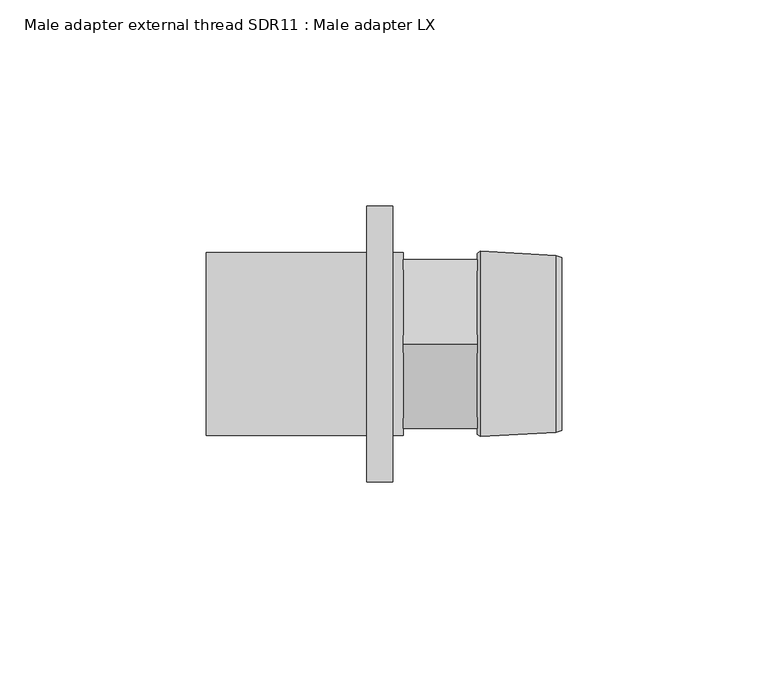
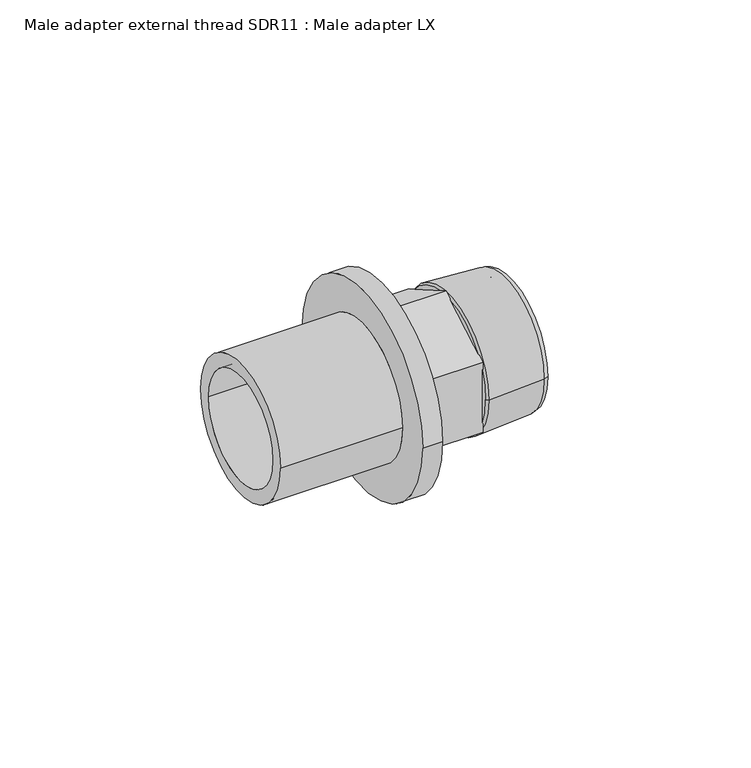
"""IFC4 building model written with IfcOpenShell, lengths in millimetres: pipe fitting geometry, Male adapter external thread SDR11 : Male adapter LX."""

import ifcopenshell
import ifcopenshell.guid

model = None  # the IFC model being written
_history = None  # IfcOwnerHistory: only IFC2X3 demands one
_inside = {}  # id of a spatial element -> (the spatial element, [elements in it])
_under = {}  # id of a project, library or spatial element -> (it, [spatial elements below it])
_declared = {}  # id of a project -> (the project, [libraries it declares])
_typed = {}  # id of a type object -> (the type object, [elements of that type])
_made_of = {}  # id of a material, layer set ... -> (it, [elements and type objects made of it])


def new_model(schema):
    """Start an empty IFC model of exactly this schema.

    Asked for "IFC4X3", IfcOpenShell would pick the latest addendum, in which some entities
    have other attributes; the version numbers below select the first issue.
    IFC2X3 requires an IfcOwnerHistory on every rooted entity: one is made here for all.
    """
    global model, _history
    if schema == "IFC4X3":
        model = ifcopenshell.file(schema_version=(4, 3, 0, 0))
    else:
        model = ifcopenshell.file(schema=schema)
    _inside.clear()
    _under.clear()
    _declared.clear()
    _typed.clear()
    _made_of.clear()
    _history = None
    if model.schema == "IFC2X3":
        org = make("IfcOrganization", Name="unknown")
        user = make(
            "IfcPersonAndOrganization",
            ThePerson=make("IfcPerson", FamilyName="unknown"),
            TheOrganization=org,
        )
        app = make(
            "IfcApplication",
            ApplicationDeveloper=org,
            Version="unknown",
            ApplicationFullName="unknown",
            ApplicationIdentifier="unknown",
        )
        _history = make(
            "IfcOwnerHistory",
            OwningUser=user,
            OwningApplication=app,
            ChangeAction="ADDED",
            CreationDate=0,
        )
    return model


def make(cls, **values):
    """One entity of the class cls with the attributes given. An attribute that is None is left unset."""
    return model.create_entity(
        cls, **{name: value for name, value in values.items() if value is not None}
    )


def rooted(cls, **values):
    """An entity with a GlobalId (a new one), such as an element, a storey or a relation."""
    return make(cls, GlobalId=ifcopenshell.guid.new(), OwnerHistory=_history, **values)


def si_unit(unit_type, name, prefix=None):
    """IfcSIUnit, for example si_unit("LENGTHUNIT", "METRE", prefix="MILLI")."""
    return make("IfcSIUnit", UnitType=unit_type, Prefix=prefix, Name=name)


def assignment(units):
    """IfcUnitAssignment: the units of a project."""
    return None if units is None else make("IfcUnitAssignment", Units=units)


def point(xyz):
    """IfcCartesianPoint."""
    return None if xyz is None else make("IfcCartesianPoint", Coordinates=xyz)


def direction(xyz):
    """IfcDirection."""
    return None if xyz is None else make("IfcDirection", DirectionRatios=xyz)


def frame(location, z_axis=None, x_axis=None):
    """IfcAxis2Placement3D, a coordinate frame: its origin and axes. An axis left out is left unset."""
    return make(
        "IfcAxis2Placement3D",
        Location=point(location),
        Axis=direction(z_axis),
        RefDirection=direction(x_axis),
    )


def origin():
    """The frame at (0, 0, 0) with its axes left unset."""
    return frame((0.0, 0.0, 0.0))


def place(relative_to, where):
    """IfcLocalPlacement: puts the frame where relative to a parent placement (None: the world)."""
    return make(
        "IfcLocalPlacement", PlacementRelTo=relative_to, RelativePlacement=where
    )


def context(
    kind, dimensions, precision=None, world=None, true_north=None, identifier=None
):
    """IfcGeometricRepresentationContext, for example the 3D "Model" context."""
    return make(
        "IfcGeometricRepresentationContext",
        ContextIdentifier=identifier,
        ContextType=kind,
        CoordinateSpaceDimension=dimensions,
        Precision=precision,
        WorldCoordinateSystem=world,
        TrueNorth=true_north,
    )


def project(units=None, contexts=None):
    """IfcProject with its units and contexts."""
    return rooted(
        "IfcProject",
        Name="project",
        RepresentationContexts=contexts,
        UnitsInContext=assignment(units),
    )


def spatial(cls, under=None, at=None, **own):
    """A site, building, storey or space (cls), placed at a placement, below another one or the project."""
    s = rooted(cls, ObjectPlacement=at, **own)
    if under is not None:
        _under.setdefault(under.id(), (under, []))[1].append(s)
    return s


def polyline(points):
    """IfcPolyline through the points."""
    return make("IfcPolyline", Points=[point(p) for p in points])


def circle_curve(where, radius):
    """IfcCircle in the frame where."""
    return make("IfcCircle", Position=where, Radius=radius)


def outline(outer, holes=None, kind="AREA"):
    """IfcArbitraryClosedProfileDef: a profile drawn as a closed curve; with holes, ...WithVoids."""
    if holes is None:
        return make("IfcArbitraryClosedProfileDef", ProfileType=kind, OuterCurve=outer)
    return make(
        "IfcArbitraryProfileDefWithVoids",
        ProfileType=kind,
        OuterCurve=outer,
        InnerCurves=holes,
    )


def extrude(swept, where, along, depth):
    """IfcExtrudedAreaSolid: the profile swept, set in the frame where, extruded along a direction by depth."""
    return make(
        "IfcExtrudedAreaSolid",
        SweptArea=swept,
        Position=where,
        ExtrudedDirection=direction(along),
        Depth=depth,
    )


def shape(context_of_items, identifier, shape_type, items):
    """IfcShapeRepresentation: the items that make up one representation, for example the "Body"."""
    return make(
        "IfcShapeRepresentation",
        ContextOfItems=context_of_items,
        RepresentationIdentifier=identifier,
        RepresentationType=shape_type,
        Items=items,
    )


def source(mapping_origin, context_of_items, identifier, shape_type, items):
    """IfcRepresentationMap: a shape defined once, which mapped items show again and again."""
    return make(
        "IfcRepresentationMap",
        MappingOrigin=mapping_origin,
        MappedRepresentation=shape(context_of_items, identifier, shape_type, items),
    )


def transform(
    local_origin,
    x_axis=None,
    y_axis=None,
    z_axis=None,
    scale=None,
    scale2=None,
    scale3=None,
    uniform=True,
):
    """IfcCartesianTransformationOperator3D, or its non-uniform kind. x_axis, y_axis, z_axis: its Axis1, 2, 3."""
    if uniform:
        return make(
            "IfcCartesianTransformationOperator3D",
            Axis1=direction(x_axis),
            Axis2=direction(y_axis),
            LocalOrigin=point(local_origin),
            Scale=scale,
            Axis3=direction(z_axis),
        )
    return make(
        "IfcCartesianTransformationOperator3DnonUniform",
        Axis1=direction(x_axis),
        Axis2=direction(y_axis),
        LocalOrigin=point(local_origin),
        Scale=scale,
        Axis3=direction(z_axis),
        Scale2=scale2,
        Scale3=scale3,
    )


def mapped(mapping_source, mapping_target):
    """IfcMappedItem: shows the shape of a source again, moved by a transform."""
    return make(
        "IfcMappedItem", MappingSource=mapping_source, MappingTarget=mapping_target
    )


def made_of(thing, what):
    """Note that an element or type object is made of a material, layer set ...; save() writes the relation."""
    if what is not None:
        _made_of.setdefault(what.id(), (what, []))[1].append(thing)
    return thing


def element(
    cls,
    number,
    at=None,
    inside=None,
    cuts=None,
    type_object=None,
    material=None,
    context=None,
    identifier="Body",
    shape_type=None,
    held_by="IfcProductDefinitionShape",
    body=None,
    shapes=None,
    **own,
):
    """One element of the class cls, such as IfcWall. Its Tag is "e" and its number.

    at: its placement. inside: the storey or other place that contains it. cuts: it is an
    opening in that element (IfcRelVoidsElement). A single representation is given by context,
    identifier, shape_type and body (its items); several are given by shapes. held_by: the class
    of the entity that holds the representations. save() writes the other relations.
    """
    e = rooted(cls, Tag="e%d" % number, ObjectPlacement=at, **own)
    if body is not None:
        shapes = [shape(context, identifier, shape_type, body)]
    if shapes is not None:
        e.Representation = make(held_by, Representations=shapes)
    if inside is not None:
        _inside.setdefault(inside.id(), (inside, []))[1].append(e)
    if cuts is not None:
        rooted(
            "IfcRelVoidsElement", RelatingBuildingElement=cuts, RelatedOpeningElement=e
        )
    if type_object is not None:
        _typed.setdefault(type_object.id(), (type_object, []))[1].append(e)
    return made_of(e, material)


def aggregate(whole, parts):
    """IfcRelAggregates: a whole, such as a stair, and the parts it consists of."""
    return rooted("IfcRelAggregates", RelatingObject=whole, RelatedObjects=parts)


def save(model, path):
    """Write the relations noted so far, then the file.

    IfcRelAggregates (storeys below a building ...), IfcRelContainedInSpatialStructure (elements
    in a storey), IfcRelDefinesByType, IfcRelAssociatesMaterial and IfcRelDeclares: one each for
    every whole, place, type object, material and project.
    """
    for whole, parts in _under.values():
        aggregate(whole, parts)
    for where, things in _inside.values():
        rooted(
            "IfcRelContainedInSpatialStructure",
            RelatedElements=things,
            RelatingStructure=where,
        )
    for kind, things in _typed.values():
        rooted("IfcRelDefinesByType", RelatedObjects=things, RelatingType=kind)
    for what, things in _made_of.values():
        rooted("IfcRelAssociatesMaterial", RelatedObjects=things, RelatingMaterial=what)
    for by, libraries in _declared.values():
        rooted("IfcRelDeclares", RelatingContext=by, RelatedDefinitions=libraries)
    model.write(path)


def plane_surface(at):
    """IfcPlane: the flat surface through the origin of the frame at, square to its z axis."""
    return make("IfcPlane", Position=at)


def cylinder_surface(at, radius):
    """IfcCylindricalSurface: all points at the distance radius from the z axis of the frame at."""
    return make("IfcCylindricalSurface", Position=at, Radius=radius)


def revolved_surface(curve, axis_point, axis_direction):
    """IfcSurfaceOfRevolution: the curve turned about the line through axis_point along axis_direction."""
    return make(
        "IfcSurfaceOfRevolution",
        SweptCurve=make("IfcArbitraryOpenProfileDef", ProfileType="CURVE", Curve=curve),
        AxisPosition=make("IfcAxis1Placement", Location=point(axis_point), Axis=direction(axis_direction)),
    )


def advanced_brep(points, edges, surfaces, faces):
    """IfcAdvancedBrep: a solid bounded by faces that lie on surfaces and meet in shared edges.

    An edge is (start, end): straight between two places in points (the first is 0);
    or (start, end, curve); or (start, end, curve, False) where it runs against its curve.
    A face is (place in surfaces, loops), or (place, loops, False) where it looks against
    its surface's normal. A loop lists edges by number (the first is 1), with a minus sign
    where the edge is run from its end to its start. The first loop is the outer one.
    """
    corners = [point(p) for p in points]
    vertices = [make("IfcVertexPoint", VertexGeometry=c) for c in corners]
    made = []
    for start, end, *more in edges:
        made.append(
            make(
                "IfcEdgeCurve",
                EdgeStart=vertices[start],
                EdgeEnd=vertices[end],
                EdgeGeometry=more[0] if more else make("IfcPolyline", Points=[corners[start], corners[end]]),
                SameSense=more[1] if len(more) > 1 else True,
            )
        )
    hull = []
    for where, loops, *sense in faces:
        bounds = []
        for j, loop in enumerate(loops):
            ring = [make("IfcOrientedEdge", EdgeElement=made[abs(k) - 1], Orientation=k > 0) for k in loop]
            bounds.append(
                make(
                    "IfcFaceOuterBound" if j == 0 else "IfcFaceBound",
                    Bound=make("IfcEdgeLoop", EdgeList=ring),
                    Orientation=True,
                )
            )
        hull.append(make("IfcAdvancedFace", Bounds=bounds, FaceSurface=surfaces[where], SameSense=sense[0] if sense else True))
    return make("IfcAdvancedBrep", Outer=make("IfcClosedShell", CfsFaces=hull))


def male_adapter_external_thread_sdr11_male_adapter_lx_b940736f(model_context):
    return source(origin(), model_context, "Body", "SolidModel", [
        advanced_brep(
        [(-8.8, 22.15, 0.0), (-8.8, -22.15, 0.0), (-47.8, -22.15, 0.0), (-47.8, 22.15, 0.0), (-2.5, 33.5, 0.0), (-2.5, -33.5, 0.0), (-8.8, -33.5, 0.0), (-8.8, 33.5, 0.0), (0.0, 22.15, 0.0), (0.0, -22.15, 0.0), (-2.5, -22.15, 0.0), (-2.5, 22.15, 0.0), (-47.8, 17.75, 0.0), (-47.8, -17.75, 0.0), (0.0, -17.75, 0.0), (0.0, 17.75, 0.0)],
        [
            (0, 1, circle_curve(frame((-8.8, 0.0, 0.0), z_axis=(-1.0, 0.0, 0.0), x_axis=(0.0, -1.0, 0.0)), 22.15)),
            (1, 2),
            (2, 3, circle_curve(frame((-47.8, 0.0, 0.0), z_axis=(1.0, 0.0, 0.0), x_axis=(0.0, -1.0, 0.0)), 22.15)),
            (3, 0),
            (4, 5, circle_curve(frame((-2.5, 0.0, 0.0), z_axis=(-1.0, 0.0, 0.0), x_axis=(0.0, -1.0, 0.0)), 33.5)),
            (5, 6),
            (6, 7, circle_curve(frame((-8.8, 0.0, 0.0), z_axis=(1.0, 0.0, 0.0), x_axis=(0.0, -1.0, 0.0)), 33.5)),
            (7, 4),
            (8, 9, circle_curve(frame((0.0, 0.0, 0.0), z_axis=(-1.0, 0.0, 0.0), x_axis=(0.0, -1.0, 0.0)), 22.15)),
            (9, 10),
            (10, 11, circle_curve(frame((-2.5, 0.0, 0.0), z_axis=(1.0, 0.0, 0.0), x_axis=(0.0, -1.0, 0.0)), 22.15)),
            (11, 8),
            (12, 13, circle_curve(frame((-47.8, 0.0, 0.0), z_axis=(-1.0, 0.0, 0.0), x_axis=(0.0, -1.0, 0.0)), 17.75)),
            (13, 14),
            (14, 15, circle_curve(frame((0.0, 0.0, 0.0), z_axis=(1.0, 0.0, 0.0), x_axis=(0.0, -1.0, 0.0)), 17.75)),
            (15, 12),
            (2, 3, circle_curve(frame((-47.8, 0.0, 0.0), z_axis=(-1.0, 0.0, 0.0), x_axis=(0.0, 1.0, 0.0)), 22.15)),
            (12, 13, circle_curve(frame((-47.8, 0.0, 0.0), z_axis=(1.0, 0.0, 0.0), x_axis=(0.0, 1.0, 0.0)), 17.75)),
            (1, 0, circle_curve(frame((-8.8, 0.0, 0.0), z_axis=(-1.0, 0.0, 0.0), x_axis=(0.0, 1.0, 0.0)), 22.15)),
            (6, 7, circle_curve(frame((-8.8, 0.0, 0.0), z_axis=(-1.0, 0.0, 0.0), x_axis=(0.0, 1.0, 0.0)), 33.5)),
            (5, 4, circle_curve(frame((-2.5, 0.0, 0.0), z_axis=(-1.0, 0.0, 0.0), x_axis=(0.0, 1.0, 0.0)), 33.5)),
            (10, 11, circle_curve(frame((-2.5, 0.0, 0.0), z_axis=(-1.0, 0.0, 0.0), x_axis=(0.0, 1.0, 0.0)), 22.15)),
            (9, 8, circle_curve(frame((0.0, 0.0, 0.0), z_axis=(-1.0, 0.0, 0.0), x_axis=(0.0, 1.0, 0.0)), 22.15)),
            (14, 15, circle_curve(frame((0.0, 0.0, 0.0), z_axis=(-1.0, 0.0, 0.0), x_axis=(0.0, 1.0, 0.0)), 17.75)),
        ],
        [
            cylinder_surface(frame((0.0, 0.0, 0.0), z_axis=(1.0, 0.0, 0.0), x_axis=(0.0, -1.0, 0.0)), 22.15),
            cylinder_surface(frame((0.0, 0.0, 0.0), z_axis=(1.0, 0.0, 0.0), x_axis=(0.0, -1.0, 0.0)), 33.5),
            revolved_surface(polyline([(0.0, -17.75, 0.0), (-47.8, -17.75, 0.0)]), (0.0, 0.0, 0.0), (1.0, 0.0, 0.0)),
            plane_surface(frame((-47.8, 0.0, 0.0), z_axis=(-1.0, 0.0, 0.0), x_axis=(0.0, 1.0, 0.0))),
            cylinder_surface(frame((0.0, 0.0, 0.0), z_axis=(1.0, 0.0, 0.0), x_axis=(0.0, 1.0, 0.0)), 22.15),
            plane_surface(frame((-8.8, 0.0, 0.0), z_axis=(-1.0, 0.0, 0.0), x_axis=(0.0, 1.0, 0.0))),
            cylinder_surface(frame((0.0, 0.0, 0.0), z_axis=(1.0, 0.0, 0.0), x_axis=(0.0, 1.0, 0.0)), 33.5),
            plane_surface(frame((-2.5, 0.0, 0.0), z_axis=(1.0, 0.0, 0.0), x_axis=(0.0, 1.0, 0.0))),
            plane_surface(frame((0.0, 0.0, 0.0), z_axis=(1.0, 0.0, 0.0), x_axis=(0.0, 1.0, 0.0))),
            revolved_surface(polyline([(0.0, 17.75, 0.0), (-47.8, 17.75, 0.0)]), (0.0, 0.0, 0.0), (1.0, 0.0, 0.0)),
        ],
        [
            (0, [[1, 2, 3, 4]]),
            (1, [[5, 6, 7, 8]]),
            (0, [[9, 10, 11, 12]]),
            (2, [[13, 14, 15, 16]]),
            (3, [[17, -3], [18, -13]]),
            (4, [[19, -4, -17, -2]]),
            (5, [[20, -7], [-19, -1]]),
            (6, [[21, -8, -20, -6]]),
            (7, [[-21, -5], [22, -11]]),
            (4, [[23, -12, -22, -10]]),
            (8, [[-23, -9], [24, -15]]),
            (9, [[-18, -16, -24, -14]]),
        ],
    ),
        advanced_brep(
        [(19.1032803, 18.0, 0.0), (19.1032803, -18.0, 0.0), (38.5, -18.0, 0.0), (38.5, 18.0, 0.0), (18.0, 16.8967197, 0.0), (18.0, -16.8967197, 0.0), (18.7406902, 22.5, 0.0), (18.7406902, -22.5, 0.0), (18.0, -22.0, 0.0), (18.0, 22.0, 0.0), (37.0000007, 21.5, 0.0), (37.0000007, -21.5, 0.0), (38.5, 21.0, 0.0), (38.5, -21.0, 0.0)],
        [
            (0, 1, circle_curve(frame((19.1032803, 0.0, 0.0), z_axis=(-1.0, 0.0, 0.0), x_axis=(0.0, -1.0, 0.0)), 18.0)),
            (1, 2),
            (2, 3, circle_curve(frame((38.5, 0.0, 0.0), z_axis=(1.0, 0.0, 0.0), x_axis=(0.0, -1.0, 0.0)), 18.0)),
            (3, 0),
            (4, 5, circle_curve(frame((18.0, 0.0, 0.0), z_axis=(-1.0, 0.0, 0.0), x_axis=(0.0, -1.0, 0.0)), 16.8967197)),
            (5, 1),
            (0, 4),
            (6, 7, circle_curve(frame((18.7406902, 0.0, 0.0), z_axis=(-1.0, 0.0, 0.0), x_axis=(0.0, -1.0, 0.0)), 22.5)),
            (7, 8),
            (8, 9, circle_curve(frame((18.0, 0.0, 0.0), z_axis=(1.0, 0.0, 0.0), x_axis=(0.0, -1.0, 0.0)), 22.0)),
            (9, 6),
            (10, 11, circle_curve(frame((37.0000007, 0.0, 0.0), z_axis=(-1.0, 0.0, 0.0), x_axis=(0.0, -1.0, 0.0)), 21.5)),
            (11, 7),
            (6, 10),
            (12, 13, circle_curve(frame((38.5, 0.0, 0.0), z_axis=(-1.0, 0.0, 0.0), x_axis=(0.0, -1.0, 0.0)), 21.0)),
            (13, 11),
            (10, 12),
            (1, 0, circle_curve(frame((19.1032803, 0.0, 0.0), z_axis=(-1.0, 0.0, 0.0), x_axis=(0.0, 1.0, 0.0)), 18.0)),
            (3, 2, circle_curve(frame((38.5, 0.0, 0.0), z_axis=(1.0, 0.0, 0.0), x_axis=(0.0, 1.0, 0.0)), 18.0)),
            (5, 4, circle_curve(frame((18.0, 0.0, 0.0), z_axis=(-1.0, 0.0, 0.0), x_axis=(0.0, 1.0, 0.0)), 16.8967197)),
            (8, 9, circle_curve(frame((18.0, 0.0, 0.0), z_axis=(-1.0, 0.0, 0.0), x_axis=(0.0, 1.0, 0.0)), 22.0)),
            (7, 6, circle_curve(frame((18.7406902, 0.0, 0.0), z_axis=(-1.0, 0.0, 0.0), x_axis=(0.0, 1.0, 0.0)), 22.5)),
            (11, 10, circle_curve(frame((37.0000007, 0.0, 0.0), z_axis=(-1.0, 0.0, 0.0), x_axis=(0.0, 1.0, 0.0)), 21.5)),
            (13, 12, circle_curve(frame((38.5, 0.0, 0.0), z_axis=(-1.0, 0.0, 0.0), x_axis=(0.0, 1.0, 0.0)), 21.0)),
        ],
        [
            revolved_surface(polyline([(38.5, -18.0, 0.0), (19.1032803, -18.0, 0.0)]), (0.0, 0.0, 0.0), (1.0, 0.0, 0.0)),
            revolved_surface(polyline([(19.1032803, -18.0, 0.0), (18.0, -16.8967197, 0.0)]), (0.0, 0.0, 0.0), (1.0, 0.0, 0.0)),
            revolved_surface(polyline([(18.0, -22.0, 0.0), (18.7406902, -22.5, 0.0)]), (0.0, 0.0, 0.0), (1.0, 0.0, 0.0)),
            revolved_surface(polyline([(18.7406902, -22.5, 0.0), (37.0000007, -21.5, 0.0)]), (0.0, 0.0, 0.0), (1.0, 0.0, 0.0)),
            revolved_surface(polyline([(37.0000007, -21.5, 0.0), (38.5, -21.0, 0.0)]), (0.0, 0.0, 0.0), (1.0, 0.0, 0.0)),
            revolved_surface(polyline([(38.5, 18.0, 0.0), (19.1032803, 18.0, 0.0)]), (0.0, 0.0, 0.0), (1.0, 0.0, 0.0)),
            revolved_surface(polyline([(19.1032803, 18.0, 0.0), (18.0, 16.8967197, 0.0)]), (0.0, 0.0, 0.0), (1.0, 0.0, 0.0)),
            plane_surface(frame((18.0, 0.0, 0.0), z_axis=(-1.0, 0.0, 0.0), x_axis=(0.0, 1.0, 0.0))),
            revolved_surface(polyline([(18.0, 22.0, 0.0), (18.7406902, 22.5, 0.0)]), (0.0, 0.0, 0.0), (1.0, 0.0, 0.0)),
            revolved_surface(polyline([(18.7406902, 22.5, 0.0), (37.0000007, 21.5, 0.0)]), (0.0, 0.0, 0.0), (1.0, 0.0, 0.0)),
            revolved_surface(polyline([(37.0000007, 21.5, 0.0), (38.5, 21.0, 0.0)]), (0.0, 0.0, 0.0), (1.0, 0.0, 0.0)),
            plane_surface(frame((38.5, 0.0, 0.0), z_axis=(1.0, 0.0, 0.0), x_axis=(0.0, 1.0, 0.0))),
        ],
        [
            (0, [[1, 2, 3, 4]]),
            (1, [[5, 6, -1, 7]]),
            (2, [[8, 9, 10, 11]]),
            (3, [[12, 13, -8, 14]]),
            (4, [[15, 16, -12, 17]]),
            (5, [[18, -4, 19, -2]]),
            (6, [[20, -7, -18, -6]]),
            (7, [[21, -10], [-20, -5]]),
            (8, [[22, -11, -21, -9]]),
            (9, [[23, -14, -22, -13]]),
            (10, [[24, -17, -23, -16]]),
            (11, [[-24, -15], [-19, -3]]),
        ],
    ),
        extrude(outline(polyline([(-20.5, 11.8356805), (0.0, 23.671361), (20.5, 11.8356805), (20.5, -11.8356805), (0.0, -23.671361), (-20.5, -11.8356805), (-20.5, 11.8356805)])), frame((0.0, 0.0, 0.0), z_axis=(1.0, 0.0, 0.0), x_axis=(0.0, 1.0, 0.0)), (0.0, 0.0, 1.0), 18.0),
    ])


if __name__ == "__main__":
    model = new_model("IFC4")
    model_context = context("Model", 3, world=origin())
    ifc_project = project(units=[si_unit("LENGTHUNIT", "METRE", prefix="MILLI")], contexts=[model_context])
    site = spatial("IfcSite", under=ifc_project)
    building = spatial("IfcBuilding", under=site)
    placement = place(None, origin())
    male_adapter_external_thread_sdr11_male_adapter_lx_shape = male_adapter_external_thread_sdr11_male_adapter_lx_b940736f(model_context)
    element("IfcPipeFitting", 1, ObjectType="Male adapter external thread SDR11 : Male adapter LX", at=placement, inside=building, context=model_context, shape_type="MappedRepresentation", body=[
        mapped(male_adapter_external_thread_sdr11_male_adapter_lx_shape, transform((0.0, 0.0, 0.0), x_axis=(1.0, 0.0, 0.0), y_axis=(0.0, 1.0, 0.0), z_axis=(0.0, 0.0, 1.0))),
    ])
    save(model, "model.ifc")
